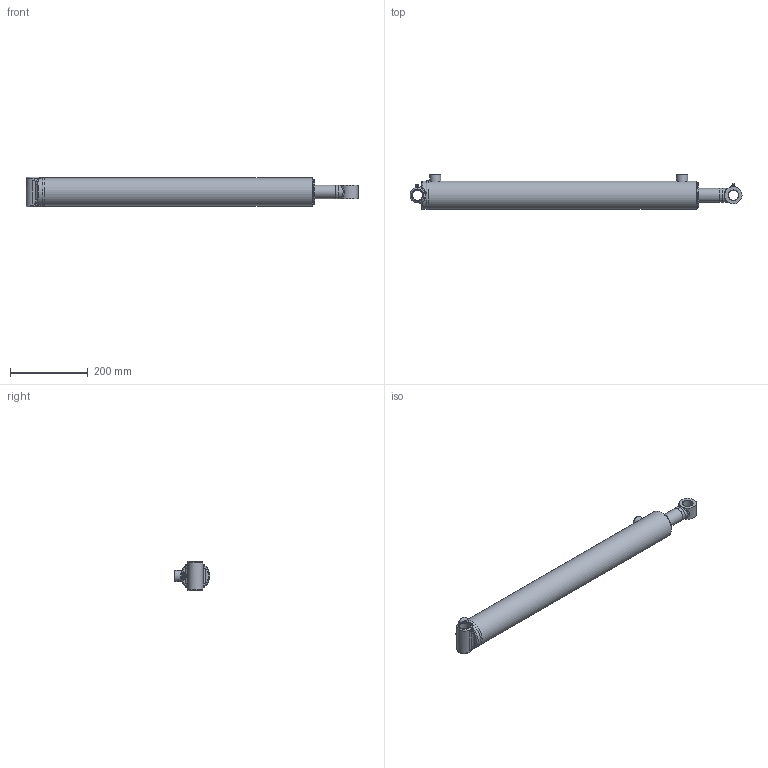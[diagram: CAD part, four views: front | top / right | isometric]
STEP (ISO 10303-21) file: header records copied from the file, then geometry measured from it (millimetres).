
FILE_DESCRIPTION(/* description */ ('Ø2.50 X 24.00 DA'),/* implementation_level */ '2;1');
FILE_NAME(/* name */ 'T:\Aces\Jobs\a98e70cfe38a4c23b2de82fb32c3d723\result.stp',/* time_stamp */ '2022-10-06T15:00:12+00:00',/* author */ (''),/* organization */ ('PRINCE MANUFACTURING'),/* preprocessor_version */ 'ST-DEVELOPER v18.1',/* originating_system */ 'Autodesk Inventor 2022',/* authorisation */ '');
FILE_SCHEMA (('AUTOMOTIVE_DESIGN { 1 0 10303 214 3 1 1 }'));
Length unit declared in the file: inch
Products named in the file (21): PC2524013A00-320XYXA; 0613-XYSF000-27237; 0513-T-27237; 161300230; 200015602; 06Weld1_C360; 0713-P-075; 220000208; 0813-G-138; 230025103; 230025003; 240000018; 240061330; 240000330; 0207A-FAW0-30250XA; 0107A-FAW0-30250; 210400812; 02Weld_C360; 240037106; 250014137; 270010020
Assembly tree (22 placements, depth 3):
  PC2524013A00-320XYXA
    0613-XYSF000-27237
      0513-T-27237
      161300230
      200015602  x2
      06Weld1_C360
    0713-P-075
    220000208
    0813-G-138
    230025103
    230025003
    240000018
    240061330
    240000330
    0207A-FAW0-30250XA
      0107A-FAW0-30250
      210400812
      02Weld_C360
    240037106
    250014137
    270010020  x2
Bounding box: 854.51 x 91.34 x 76.2 mm (x, y, z)
Volume: 1728604.5 mm3; surface area: 499649.4 mm2
Topology: 25 solids, 25 shells, 554 faces, 1338 edges, 857 vertices
Faces by surface type: bspline 155, plane 140, torus 86, cone 86, cylinder 83, sphere 4
Full cylindrical faces by diameter (mm): 2.143 x4, 3.175 x1, 5.359 x2, 6.35 x2, 9.525 x2, 12.649 x1, 12.7 x1, 12.725 x1, 17.323 x3, 18.999 x1, 19.126 x1, 21.615 x1, 25.781 x2, 28.575 x2, 34.925 x1, 35.001 x2, 35.56 x2, 36.957 x1, 40.64 x1, 41.3 x1, 44.45 x1, 46.101 x2, 47.625 x2, 50.8 x2, 54.077 x2, 54.813 x2, 59.931 x2, 60.071 x1, 60.096 x4, 62.886 x2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
Entity records: 32488 total; most frequent: CARTESIAN_POINT 20016, ORIENTED_EDGE 2458, DIRECTION 2131, EDGE_CURVE 1229, AXIS2_PLACEMENT_3D 894, VERTEX_POINT 796, EDGE_LOOP 589, FACE_OUTER_BOUND 510
